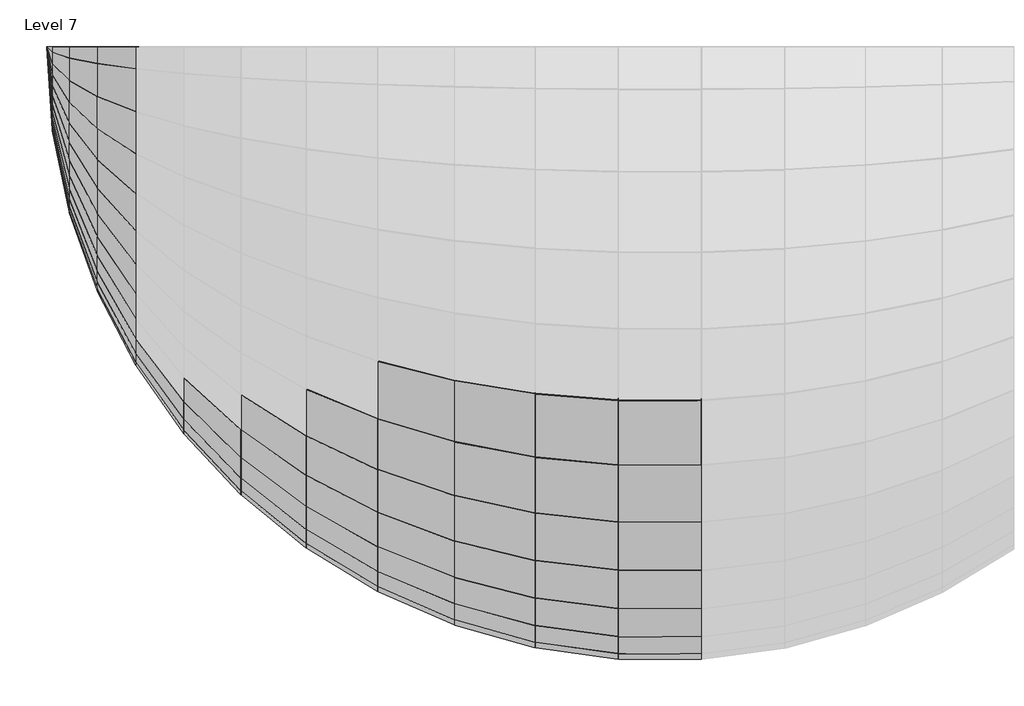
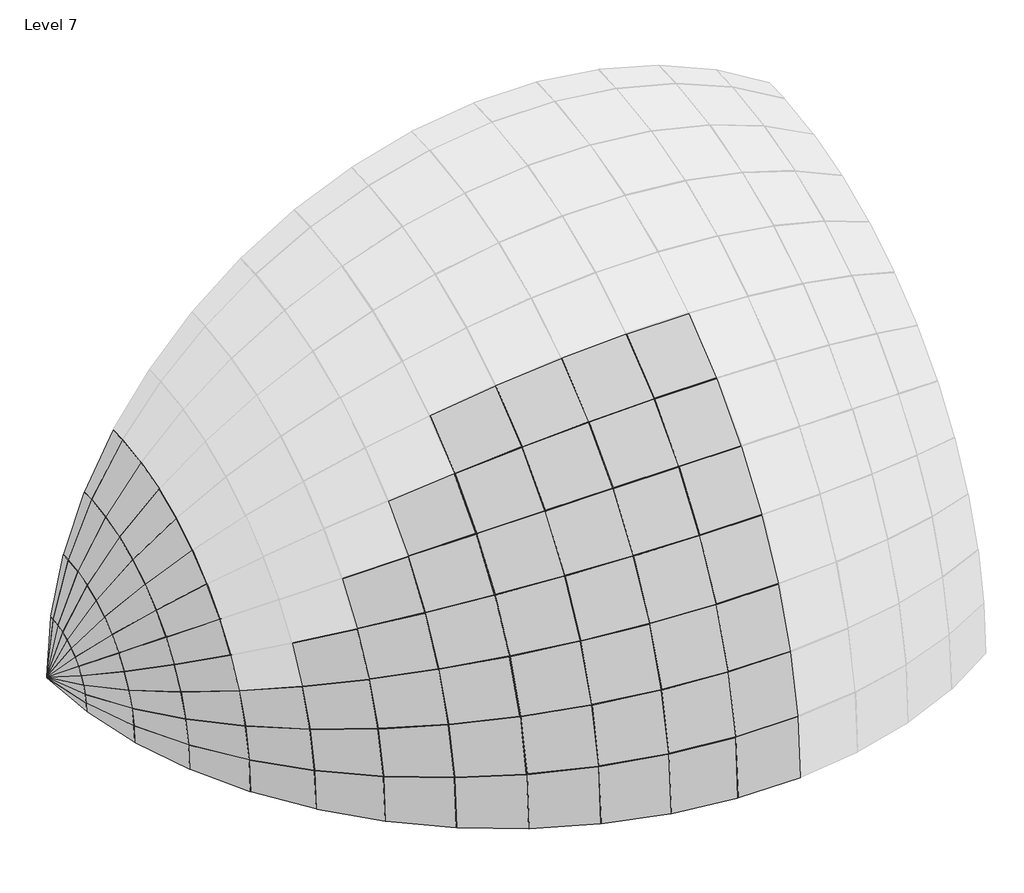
# One storey, part 1 of 3: 94 plates.
"""IFC4 building model written with IfcOpenShell, lengths in millimetres."""

from ifc_helpers import new_model, si_unit, origin, place, context, project, spatial, transform, mapped, element, save
from components import system_panel_glazed_eb2872cb, system_panel_glazed_7e7e82f3, system_panel_glazed_5717b311, system_panel_glazed_51fa8bef, system_panel_glazed_06019405, system_panel_glazed_b8320560, system_panel_glazed_dcb776d8, system_panel_glazed_54b3e10f, system_panel_glazed_054aaf1e, system_panel_glazed_7c4f69a4, system_panel_glazed_fc79af4e, system_panel_glazed_180d510e, system_panel_glazed_a0e03bef, system_panel_glazed_840653ca, system_panel_glazed_85b935d5, system_panel_glazed_2d759943

model = new_model("IFC4")

# Units and contexts
model_context = context("Model", 3, world=origin())
ifc_project = project(units=[si_unit("LENGTHUNIT", "METRE", prefix="MILLI")], contexts=[model_context])

# Site, building, storey
site = spatial("IfcSite", under=ifc_project)
building = spatial("IfcBuilding", under=site)
storey = spatial("IfcBuildingStorey", under=building, Name="Level 7", Elevation=24000.0)

# Plates
placement = place(None, origin())
system_panel_glazed_shape = system_panel_glazed_eb2872cb(model_context)
element("IfcPlate", 1, ObjectType="System Panel : Glazed", at=placement, inside=storey, context=model_context, shape_type="MappedRepresentation", body=[
    mapped(system_panel_glazed_shape, transform((-4459.5497772, -1906.491426, 16061.1643592), x_axis=(0.06834011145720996, -0.9953404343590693, 0.06802241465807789), y_axis=(-0.9976620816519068, -0.06818107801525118, 0.0046595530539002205), z_axis=(0.0, -0.06818181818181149, -0.9976729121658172))),
])
element("IfcPlate", 2, ObjectType="System Panel : Glazed", at=placement, inside=storey, context=model_context, shape_type="MappedRepresentation", body=[
    mapped(system_panel_glazed_shape, transform((-4459.5497772, -1895.4145864, 16100.917895), x_axis=(0.06834011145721, -0.9768320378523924, 0.20280236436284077), y_axis=(-0.997662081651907, -0.06691324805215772, 0.013892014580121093), z_axis=(0.0, -0.2032776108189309, -0.9791211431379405))),
])
element("IfcPlate", 3, ObjectType="System Panel : Glazed", at=placement, inside=storey, context=model_context, shape_type="MappedRepresentation", body=[
    mapped(system_panel_glazed_shape, transform((-4459.5497772, -1879.0324123, 16138.7948584), x_axis=(0.06834011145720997, -0.9401594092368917, 0.3338111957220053), y_axis=(-0.997662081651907, -0.06440116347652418, 0.022866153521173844), z_axis=(0.0, -0.33459344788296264, -0.9423625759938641))),
])
element("IfcPlate", 4, ObjectType="System Panel : Glazed", at=placement, inside=storey, context=model_context, shape_type="MappedRepresentation", body=[
    mapped(system_panel_glazed_shape, transform((-4459.5497772, -1857.6495308, 16174.0909257), x_axis=(0.06834011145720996, -0.8860044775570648, 0.4586127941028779), y_axis=(-0.997662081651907, -0.060691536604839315, 0.03141509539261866), z_axis=(0.0, -0.459687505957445, -0.8880807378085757))),
])
element("IfcPlate", 5, ObjectType="System Panel : Glazed", at=placement, inside=storey, context=model_context, shape_type="MappedRepresentation", body=[
    mapped(system_panel_glazed_shape, transform((-4459.5497772, -1831.6635575, 16206.149765), x_axis=(0.06834011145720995, -0.815374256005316, 0.5748864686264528), y_axis=(-0.997662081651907, -0.055853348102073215, 0.03937987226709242), z_axis=(0.0, -0.5762336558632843, -0.8172850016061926))),
])
element("IfcPlate", 6, ObjectType="System Panel : Glazed", at=placement, inside=storey, context=model_context, shape_type="MappedRepresentation", body=[
    mapped(system_panel_glazed_shape, transform((-4459.5497772, -1801.5577027, 16234.375241), x_axis=(0.06834011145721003, -0.7295821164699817, 0.6804701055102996), y_axis=(-0.9976620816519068, -0.04997656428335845, 0.046612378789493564), z_axis=(0.0, -0.682064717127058, -0.731291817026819))),
])
element("IfcPlate", 7, ObjectType="System Panel : Glazed", at=placement, inside=storey, context=model_context, shape_type="MappedRepresentation", body=[
    mapped(system_panel_glazed_shape, transform((-4459.5497772, -1767.8917859, 16258.2424996), x_axis=(0.06834011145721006, -0.6302233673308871, 0.7734003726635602), y_axis=(-0.9976620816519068, -0.04317046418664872, 0.05297812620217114), z_axis=(0.0, -0.7752127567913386, -0.6317002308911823))),
])
element("IfcPlate", 8, ObjectType="System Panel : Glazed", at=placement, inside=storey, context=model_context, shape_type="MappedRepresentation", body=[
    mapped(system_panel_glazed_shape, transform((-4459.5497772, -1731.2918263, 16277.3077283), x_axis=(0.06834011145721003, -0.5191455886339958, 0.8519492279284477), y_axis=(-0.9976620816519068, -0.03556160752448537, 0.058358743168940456), z_axis=(0.0, -0.8539456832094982, -0.5203621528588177))),
])
element("IfcPlate", 9, ObjectType="System Panel : Glazed", at=placement, inside=storey, context=model_context, shape_type="MappedRepresentation", body=[
    mapped(system_panel_glazed_shape, transform((-4459.5497772, -1692.4384017, 16291.2164083), x_axis=(0.06834011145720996, -0.3984142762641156, 0.914656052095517), y_axis=(-0.997662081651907, -0.027291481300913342, 0.06265417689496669), z_axis=(0.0, -0.9167994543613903, -0.39934791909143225))),
])
element("IfcPlate", 10, ObjectType="System Panel : Glazed", at=placement, inside=storey, context=model_context, shape_type="MappedRepresentation", body=[
    mapped(system_panel_glazed_shape, transform((-4459.5497772, -1652.053993, 16299.7099072), x_axis=(0.06834011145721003, -0.2702744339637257, 0.9603548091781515), y_axis=(-0.9976620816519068, -0.018513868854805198, 0.0657845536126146), z_axis=(0.0, -0.9626053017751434, -0.27090779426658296))),
])
element("IfcPlate", 11, ObjectType="System Panel : Glazed", at=placement, inside=storey, context=model_context, shape_type="MappedRepresentation", body=[
    mapped(system_panel_glazed_shape, transform((-4459.5497772, -1610.8895501, 16302.6302879), x_axis=(0.06834011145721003, -0.13710882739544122, 0.9881957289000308), y_axis=(-0.997662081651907, -0.009391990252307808, 0.06769166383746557), z_axis=(0.0, -0.9905114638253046, -0.13743012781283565))),
])
system_panel_glazed_2_shape = system_panel_glazed_7e7e82f3(model_context)
element("IfcPlate", 12, ObjectType="System Panel : Glazed", at=placement, inside=storey, context=model_context, shape_type="MappedRepresentation", body=[
    mapped(system_panel_glazed_2_shape, transform((-4459.5497758, -1599.7374285, 16300.9271061), x_axis=(0.0682229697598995, -0.03472771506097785, 0.997065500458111), y_axis=(-0.9976700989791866, -0.002374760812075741, 0.06818162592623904), z_axis=(0.0, -0.9993939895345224, -0.034808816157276))),
])
system_panel_glazed_3_shape = system_panel_glazed_5717b311(model_context)
element("IfcPlate", 13, ObjectType="System Panel : Glazed", at=placement, inside=storey, context=model_context, shape_type="MappedRepresentation", body=[
    mapped(system_panel_glazed_3_shape, transform((-4439.181621, -2205.9264651, 16040.7189144), x_axis=(0.0, 0.06818181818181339, 0.9976729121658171), y_axis=(-0.9790266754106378, -0.20325799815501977, 0.013890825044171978), z_axis=(0.20373210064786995, -0.9767483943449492, 0.06675181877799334))),
])
element("IfcPlate", 14, ObjectType="System Panel : Glazed", at=placement, inside=storey, context=model_context, shape_type="MappedRepresentation", body=[
    mapped(system_panel_glazed_3_shape, transform((-4439.181621, -2194.8471493, 16121.3995732), x_axis=(0.0, 0.20327761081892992, 0.9791211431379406), y_axis=(-0.9790266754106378, -0.19947840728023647, 0.041414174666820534), z_axis=(0.20373210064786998, -0.9585857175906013, 0.19901420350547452))),
])
element("IfcPlate", 15, ObjectType="System Panel : Glazed", at=placement, inside=storey, context=model_context, shape_type="MappedRepresentation", body=[
    mapped(system_panel_glazed_3_shape, transform((-4439.181621, -2172.8945381, 16199.8228019), x_axis=(0.0, 0.33459344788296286, 0.9423625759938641), y_axis=(-0.9790266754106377, -0.19198950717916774, 0.06816742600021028), z_axis=(0.20373210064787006, -0.9225980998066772, 0.3275759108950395))),
])
element("IfcPlate", 16, ObjectType="System Panel : Glazed", at=placement, inside=storey, context=model_context, shape_type="MappedRepresentation", body=[
    mapped(system_panel_glazed_3_shape, transform((-4439.181621, -2140.4768411, 16274.5303173), x_axis=(0.0, 0.4596875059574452, 0.8880807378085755), y_axis=(-0.9790266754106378, -0.1809305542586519, 0.0936531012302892), z_axis=(0.20373210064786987, -0.8694547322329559, 0.45004633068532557))),
])
element("IfcPlate", 17, ObjectType="System Panel : Glazed", at=placement, inside=storey, context=model_context, shape_type="MappedRepresentation", body=[
    mapped(system_panel_glazed_3_shape, transform((-4439.181621, -2098.1968668, 16344.1329302), x_axis=(0.0, 0.5762336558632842, 0.8172850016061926), y_axis=(-0.9790266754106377, -0.1665071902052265, 0.11739729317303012), z_axis=(0.2037321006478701, -0.8001438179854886, 0.5641481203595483))),
])
element("IfcPlate", 18, ObjectType="System Panel : Glazed", at=placement, inside=storey, context=model_context, shape_type="MappedRepresentation", body=[
    mapped(system_panel_glazed_3_shape, transform((-4439.181621, -2046.8408131, 16407.336377), x_axis=(0.0, 0.6820647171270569, 0.73129181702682), y_axis=(-0.9790266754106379, -0.1489876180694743, 0.13895847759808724), z_axis=(0.20373210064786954, -0.7159541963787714, 0.6677595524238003))),
])
element("IfcPlate", 19, ObjectType="System Panel : Glazed", at=placement, inside=storey, context=model_context, shape_type="MappedRepresentation", body=[
    mapped(system_panel_glazed_3_shape, transform((-4439.181621, -1987.3636479, 16462.9653871), x_axis=(0.0, 0.7752127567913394, 0.6317002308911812), y_axis=(-0.9790266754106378, -0.1286976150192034, 0.15793572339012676), z_axis=(0.20373210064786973, -0.6184513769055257, 0.7589539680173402))),
])
element("IfcPlate", 20, ObjectType="System Panel : Glazed", at=placement, inside=storey, context=model_context, shape_type="MappedRepresentation", body=[
    mapped(system_panel_glazed_3_shape, transform((-4439.181621, -1920.8713515, 16509.9855366), x_axis=(0.0, 0.8539456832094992, 0.5203621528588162), y_axis=(-0.9790266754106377, -0.1060144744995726, 0.17397614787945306), z_axis=(0.20373210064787, -0.5094484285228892, 0.8360356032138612))),
])
element("IfcPlate", 21, ObjectType="System Panel : Glazed", at=placement, inside=storey, context=model_context, shape_type="MappedRepresentation", body=[
    mapped(system_panel_glazed_3_shape, transform((-4439.181621, -1848.6003509, 16547.5224841), x_axis=(0.0, 0.9167994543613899, 0.3993479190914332), y_axis=(-0.9790266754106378, -0.08135999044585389, 0.18678147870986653), z_axis=(0.20373210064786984, -0.3909722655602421, 0.8975711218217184))),
])
element("IfcPlate", 22, ObjectType="System Panel : Glazed", at=placement, inside=storey, context=model_context, shape_type="MappedRepresentation", body=[
    mapped(system_panel_glazed_3_shape, transform((-4439.181621, -1771.8945284, 16574.8782283), x_axis=(0.0, 0.9626053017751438, 0.27090779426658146), y_axis=(-0.9790266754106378, -0.05519261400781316, 0.1961136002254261), z_axis=(0.20373210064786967, -0.26522595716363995, 0.9424162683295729))),
])
element("IfcPlate", 23, ObjectType="System Panel : Glazed", at=placement, inside=storey, context=model_context, shape_type="MappedRepresentation", body=[
    mapped(system_panel_glazed_3_shape, transform((-4439.181621, -1692.180232, 16591.5440881), x_axis=(0.0, 0.9905114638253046, 0.13743012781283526), y_axis=(-0.9790266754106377, -0.02799892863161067, 0.2017989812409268), z_axis=(0.20373210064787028, -0.13454776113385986, 0.969737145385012))),
])
system_panel_glazed_4_shape = system_panel_glazed_51fa8bef(model_context)
element("IfcPlate", 24, ObjectType="System Panel : Glazed", at=placement, inside=storey, context=model_context, shape_type="MappedRepresentation", body=[
    mapped(system_panel_glazed_4_shape, transform((-4439.181621, -1630.9295437, 16597.8784469), x_axis=(0.0, 0.9993939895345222, 0.034808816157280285), y_axis=(-0.9790966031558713, -0.007079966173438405, 0.20327251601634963), z_axis=(0.2033957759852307, -0.0340811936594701, 0.9785032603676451))),
])
system_panel_glazed_5_shape = system_panel_glazed_06019405(model_context)
element("IfcPlate", 25, ObjectType="System Panel : Glazed", at=placement, inside=storey, context=model_context, shape_type="MappedRepresentation", body=[
    mapped(system_panel_glazed_5_shape, transform((-4317.2150545, -2790.6681312, 16080.6806588), x_axis=(0.0, 0.06818181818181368, 0.9976729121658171), y_axis=(-0.9421163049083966, -0.3345060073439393, 0.022860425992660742), z_axis=(0.3352862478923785, -0.9399239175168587, 0.0642352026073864))),
])
element("IfcPlate", 26, ObjectType="System Panel : Glazed", at=placement, inside=storey, context=model_context, shape_type="MappedRepresentation", body=[
    mapped(system_panel_glazed_5_shape, transform((-4317.2150545, -2768.71552, 16240.5417162), x_axis=(0.0, 0.20327761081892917, 0.9791211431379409), y_axis=(-0.9421163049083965, -0.32828585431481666, 0.06815618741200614), z_axis=(0.33528624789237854, -0.9224459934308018, 0.1915111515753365))),
])
element("IfcPlate", 27, ObjectType="System Panel : Glazed", at=placement, inside=storey, context=model_context, shape_type="MappedRepresentation", body=[
    mapped(system_panel_glazed_5_shape, transform((-4317.2150545, -2725.2185073, 16395.9298905), x_axis=(0.0, 0.3345934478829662, 0.9423625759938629), y_axis=(-0.9421163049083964, -0.3159612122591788, 0.11218458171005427), z_axis=(0.3352862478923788, -0.887815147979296, 0.3152259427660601))),
])
element("IfcPlate", 28, ObjectType="System Panel : Glazed", at=placement, inside=storey, context=model_context, shape_type="MappedRepresentation", body=[
    mapped(system_panel_glazed_5_shape, transform((-4317.2150545, -2660.9859218, 16543.9557321), x_axis=(0.0, 0.45968750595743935, 0.8880807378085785), y_axis=(-0.942116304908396, -0.29776125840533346, 0.15412689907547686), z_axis=(0.3352862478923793, -0.8366753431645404, 0.4330790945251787))),
])
element("IfcPlate", 29, ObjectType="System Panel : Glazed", at=placement, inside=storey, context=model_context, shape_type="MappedRepresentation", body=[
    mapped(system_panel_glazed_5_shape, transform((-4317.2150545, -2577.2121711, 16681.8666944), x_axis=(0.0, 0.5762336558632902, 0.8172850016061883), y_axis=(-0.9421163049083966, -0.274024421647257, 0.1932032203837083), z_axis=(0.3352862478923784, -0.7699775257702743, 0.5428791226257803))),
])
element("IfcPlate", 30, ObjectType="System Panel : Glazed", at=placement, inside=storey, context=model_context, shape_type="MappedRepresentation", body=[
    mapped(system_panel_glazed_5_shape, transform((-4317.2150545, -2475.4550316, 16807.0983173), x_axis=(0.0, 0.6820647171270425, 0.7312918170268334), y_axis=(-0.9421163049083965, -0.24519208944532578, 0.22868691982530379), z_axis=(0.3352862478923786, -0.6889619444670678, 0.6425842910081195))),
])
element("IfcPlate", 31, ObjectType="System Panel : Glazed", at=placement, inside=storey, context=model_context, shape_type="MappedRepresentation", body=[
    mapped(system_panel_glazed_5_shape, transform((-4317.2150545, -2357.6066815, 16917.3219137), x_axis=(0.0, 0.7752127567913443, 0.6317002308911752), y_axis=(-0.9421163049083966, -0.21180040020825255, 0.2599181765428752), z_axis=(0.33528624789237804, -0.5951350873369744, 0.7303405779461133))),
])
element("IfcPlate", 32, ObjectType="System Panel : Glazed", at=placement, inside=storey, context=model_context, shape_type="MappedRepresentation", body=[
    mapped(system_panel_glazed_5_shape, transform((-4317.2150545, -2225.8585157, 17010.4878711), x_axis=(0.0, 0.8539456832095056, 0.5203621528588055), y_axis=(-0.9421163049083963, -0.17447027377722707, 0.2863162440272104), z_axis=(0.3352862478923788, -0.4902416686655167, 0.8045161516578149))),
])
element("IfcPlate", 33, ObjectType="System Panel : Glazed", at=placement, inside=storey, context=model_context, shape_type="MappedRepresentation", body=[
    mapped(system_panel_glazed_5_shape, transform((-4317.2150545, -2082.6603968, 17084.8637649), x_axis=(0.0, 0.9167994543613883, 0.3993479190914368), y_axis=(-0.9421163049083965, -0.13389586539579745, 0.3073902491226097), z_axis=(0.3352862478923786, -0.37623218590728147, 0.8637317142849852))),
])
element("IfcPlate", 34, ObjectType="System Panel : Glazed", at=placement, inside=storey, context=model_context, shape_type="MappedRepresentation", body=[
    mapped(system_panel_glazed_5_shape, transform((-4317.2150545, -1930.6750998, 17139.0665721), x_axis=(0.0, 0.9626053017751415, 0.27090779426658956), y_axis=(-0.9421163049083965, -0.0908316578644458, 0.3227483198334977), z_axis=(0.3352862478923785, -0.2552266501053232, 0.9068861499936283))),
])
element("IfcPlate", 35, ObjectType="System Panel : Glazed", at=placement, inside=storey, context=model_context, shape_type="MappedRepresentation", body=[
    mapped(system_panel_glazed_5_shape, transform((-4317.2150545, -1772.7287975, 17172.0883893), x_axis=(0.0, 0.990511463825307, 0.13743012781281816), y_axis=(-0.9421163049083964, -0.04607843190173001, 0.33210487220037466), z_axis=(0.3352862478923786, -0.12947516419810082, 0.9331770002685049))),
])
system_panel_glazed_6_shape = system_panel_glazed_b8320560(model_context)
element("IfcPlate", 36, ObjectType="System Panel : Glazed", at=placement, inside=storey, context=model_context, shape_type="MappedRepresentation", body=[
    mapped(system_panel_glazed_6_shape, transform((-4317.2150545, -1651.3663799, 17184.6393193), x_axis=(0.0, 0.9993939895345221, 0.034808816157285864), y_axis=(-0.9422985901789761, -0.011653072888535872, 0.3345707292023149), z_axis=(0.33477360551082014, -0.03280029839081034, 0.9417275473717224))),
])
system_panel_glazed_7_shape = system_panel_glazed_dcb776d8(model_context)
element("IfcPlate", 37, ObjectType="System Panel : Glazed", at=placement, inside=storey, context=model_context, shape_type="MappedRepresentation", body=[
    mapped(system_panel_glazed_7_shape, transform((-4116.4589858, -3353.4571862, 16119.1421431), x_axis=(0.0, 0.0681818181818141, 0.9976729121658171), y_axis=(-0.887642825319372, -0.459460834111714, 0.03139994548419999), z_axis=(0.46053253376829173, -0.8855772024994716, 0.060521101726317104))),
])
element("IfcPlate", 38, ObjectType="System Panel : Glazed", at=placement, inside=storey, context=model_context, shape_type="MappedRepresentation", body=[
    mapped(system_panel_glazed_7_shape, transform((-4116.4589858, -3321.0394892, 16355.2109762), x_axis=(0.0, 0.20327761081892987, 0.9791211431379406), y_axis=(-0.8876428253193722, -0.45091714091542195, 0.09361595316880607), z_axis=(0.4605325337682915, -0.869109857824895, 0.18043791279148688))),
])
element("IfcPlate", 39, ObjectType="System Panel : Glazed", at=placement, inside=storey, context=model_context, shape_type="MappedRepresentation", body=[
    mapped(system_panel_glazed_7_shape, transform((-4116.4589858, -3256.8069037, 16584.6746465), x_axis=(0.0, 0.3345934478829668, 0.9423625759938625), y_axis=(-0.8876428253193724, -0.4339886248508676, 0.15409116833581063), z_axis=(0.4605325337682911, -0.8364813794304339, 0.29699947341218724))),
])
element("IfcPlate", 40, ObjectType="System Panel : Glazed", at=placement, inside=storey, context=model_context, shape_type="MappedRepresentation", body=[
    mapped(system_panel_glazed_7_shape, transform((-4116.4589858, -3161.9538373, 16803.2662675), x_axis=(0.0, 0.4596875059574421, 0.8880807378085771), y_axis=(-0.8876428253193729, -0.40899007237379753, 0.21170105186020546), z_axis=(0.4605325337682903, -0.7882984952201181, 0.4080383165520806))),
])
element("IfcPlate", 41, ObjectType="System Panel : Glazed", at=placement, inside=storey, context=model_context, shape_type="MappedRepresentation", body=[
    mapped(system_panel_glazed_7_shape, transform((-4116.4589858, -3038.2440865, 17006.9211192), x_axis=(0.0, 0.5762336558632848, 0.8172850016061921), y_axis=(-0.8876428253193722, -0.37638633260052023, 0.2653743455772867), z_axis=(0.46053253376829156, -0.7254571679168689, 0.5114896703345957))),
])
element("IfcPlate", 42, ObjectType="System Panel : Glazed", at=placement, inside=storey, context=model_context, shape_type="MappedRepresentation", body=[
    mapped(system_panel_glazed_7_shape, transform((-4116.4589858, -2887.9780394, 17191.852231), x_axis=(0.0, 0.682064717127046, 0.7312918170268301), y_axis=(-0.8876428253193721, -0.3367836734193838, 0.31411299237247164), z_axis=(0.46053253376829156, -0.6491259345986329, 0.6054298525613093))),
])
element("IfcPlate", 43, ObjectType="System Panel : Glazed", at=placement, inside=storey, context=model_context, shape_type="MappedRepresentation", body=[
    mapped(system_panel_glazed_7_shape, transform((-4116.4589858, -2713.9498994, 17354.6208014), x_axis=(0.0, 0.7752127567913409, 0.6317002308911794), y_axis=(-0.8876428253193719, -0.2909185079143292, 0.3570106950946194), z_axis=(0.46053253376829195, -0.5607241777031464, 0.6881120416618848))),
])
element("IfcPlate", 44, ObjectType="System Panel : Glazed", at=placement, inside=storey, context=model_context, shape_type="MappedRepresentation", body=[
    mapped(system_panel_glazed_7_shape, transform((-4116.4589858, -2519.3957268, 17492.2001419), x_axis=(0.0, 0.8539456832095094, 0.5203621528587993), y_axis=(-0.8876428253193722, -0.23964370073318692, 0.3932697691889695), z_axis=(0.46053253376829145, -0.46189573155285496, 0.7579987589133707))),
])
element("IfcPlate", 45, ObjectType="System Panel : Glazed", at=placement, inside=storey, context=model_context, shape_type="MappedRepresentation", body=[
    mapped(system_panel_glazed_7_shape, transform((-4116.4589858, -2307.9332645, 17602.0319592), x_axis=(0.0, 0.9167994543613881, 0.39934791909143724), y_axis=(-0.8876428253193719, -0.1839127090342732, 0.4222159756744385), z_axis=(0.46053253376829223, -0.3544783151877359, 0.8137904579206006))),
])
element("IfcPlate", 46, ObjectType="System Panel : Glazed", at=placement, inside=storey, context=model_context, shape_type="MappedRepresentation", body=[
    mapped(system_panel_glazed_7_shape, transform((-4116.4589858, -2083.4946658, 17682.073926), x_axis=(0.0, 0.9626053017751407, 0.2709077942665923), y_axis=(-0.8876428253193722, -0.12476185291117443, 0.44331105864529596), z_axis=(0.4605325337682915, -0.24046935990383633, 0.854449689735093))),
])
element("IfcPlate", 47, ObjectType="System Panel : Glazed", at=placement, inside=storey, context=model_context, shape_type="MappedRepresentation", body=[
    mapped(system_panel_glazed_7_shape, transform((-4116.4589858, -1850.2533757, 17730.8376586), x_axis=(0.0, 0.9905114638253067, 0.13743012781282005), y_axis=(-0.8876428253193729, -0.06329104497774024, 0.45616275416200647), z_axis=(0.46053253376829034, -0.12198886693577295, 0.8792203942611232))),
])
system_panel_glazed_8_shape = system_panel_glazed_54b3e10f(model_context)
element("IfcPlate", 48, ObjectType="System Panel : Glazed", at=placement, inside=storey, context=model_context, shape_type="MappedRepresentation", body=[
    mapped(system_panel_glazed_8_shape, transform((-4116.4589858, -1671.0359681, 17749.3717747), x_axis=(0.0, 0.9993939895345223, 0.03480881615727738), y_axis=(-0.8879669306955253, -0.016008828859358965, 0.4596285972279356), z_axis=(0.45990730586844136, -0.030909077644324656, 0.8874288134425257))),
])
system_panel_glazed_9_shape = system_panel_glazed_054aaf1e(model_context)
element("IfcPlate", 49, ObjectType="System Panel : Glazed", at=placement, inside=storey, context=model_context, shape_type="MappedRepresentation", body=[
    mapped(system_panel_glazed_9_shape, transform((-3840.6464822, -3883.8285442, 16155.3881743), x_axis=(0.0, 0.0681818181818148, 0.9976729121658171), y_axis=(-0.8166520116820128, -0.575787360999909, 0.039349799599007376), z_axis=(0.5771303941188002, -0.8147515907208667, 0.055680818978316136))),
])
element("IfcPlate", 50, ObjectType="System Panel : Glazed", at=placement, inside=storey, context=model_context, shape_type="MappedRepresentation", body=[
    mapped(system_panel_glazed_9_shape, transform((-3840.6464822, -3841.5485699, 16463.2750733), x_axis=(0.0, 0.20327761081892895, 0.9791211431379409), y_axis=(-0.8166520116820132, -0.5650805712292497, 0.1173176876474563), z_axis=(0.5771303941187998, -0.7996012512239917, 0.16600706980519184))),
])
element("IfcPlate", 51, ObjectType="System Panel : Glazed", at=placement, inside=storey, context=model_context, shape_type="MappedRepresentation", body=[
    mapped(system_panel_glazed_9_shape, transform((-3840.6464822, -3757.7748192, 16762.5473532), x_axis=(0.0, 0.33459344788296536, 0.9423625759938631), y_axis=(-0.816652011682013, -0.5438660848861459, 0.1931040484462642), z_axis=(0.5771303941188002, -0.7695822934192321, 0.2732464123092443))),
])
system_panel_glazed_10_shape = system_panel_glazed_7c4f69a4(model_context)
element("IfcPlate", 52, ObjectType="System Panel : Glazed", at=placement, inside=storey, context=model_context, shape_type="MappedRepresentation", body=[
    mapped(system_panel_glazed_10_shape, transform((-3494.9062887, -4371.9199279, 16188.7447559), x_axis=(0.0, 0.06818181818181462, 0.997672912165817), y_axis=(-0.7304986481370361, -0.681324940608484, 0.046562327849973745), z_axis=(0.6829141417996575, -0.7287987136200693, 0.04980672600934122))),
])
element("IfcPlate", 53, ObjectType="System Panel : Glazed", at=placement, inside=storey, context=model_context, shape_type="MappedRepresentation", body=[
    mapped(system_panel_glazed_10_shape, transform((-3494.9062887, -4320.5638741, 16562.7245513), x_axis=(0.0, 0.2032776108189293, 0.9791211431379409), y_axis=(-0.7304986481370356, -0.668655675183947, 0.13882115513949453), z_axis=(0.6829141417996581, -0.7152466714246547, 0.1484940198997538))),
])
element("IfcPlate", 54, ObjectType="System Panel : Glazed", at=placement, inside=storey, context=model_context, shape_type="MappedRepresentation", body=[
    mapped(system_panel_glazed_10_shape, transform((-3494.9062887, -4218.8067346, 16926.2404604), x_axis=(0.0, 0.33459344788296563, 0.942362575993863), y_axis=(-0.7304986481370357, -0.643552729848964, 0.22849859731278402), z_axis=(0.682914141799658, -0.6883945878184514, 0.24442006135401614))),
])
element("IfcPlate", 55, ObjectType="System Panel : Glazed", at=placement, inside=storey, context=model_context, shape_type="MappedRepresentation", body=[
    mapped(system_panel_glazed_10_shape, transform((-3494.9062887, -4068.5406876, 17272.5328898), x_axis=(0.0, 0.4596875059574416, 0.8880807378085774), y_axis=(-0.7304986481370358, -0.6064828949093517, 0.3139270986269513), z_axis=(0.6829141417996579, -0.648741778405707, 0.33580110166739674))),
])
system_panel_glazed_11_shape = system_panel_glazed_fc79af4e(model_context)
element("IfcPlate", 56, ObjectType="System Panel : Glazed", at=placement, inside=storey, context=model_context, shape_type="MappedRepresentation", body=[
    mapped(system_panel_glazed_11_shape, transform((-3085.6674584, -4808.6552579, 16218.5916211), x_axis=(0.0, 0.06818181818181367, 0.9976729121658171), y_axis=(-0.6308155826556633, -0.7741271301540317, 0.05290450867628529), z_axis=(0.7759327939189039, -0.6293476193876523, 0.04301015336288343))),
])
element("IfcPlate", 57, ObjectType="System Panel : Glazed", at=placement, inside=storey, context=model_context, shape_type="MappedRepresentation", body=[
    mapped(system_panel_glazed_11_shape, transform((-3085.6674584, -4749.1780926, 16651.710143), x_axis=(0.0, 0.20327761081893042, 0.9791211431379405), y_axis=(-0.630815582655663, -0.7597322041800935, 0.15772976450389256), z_axis=(0.7759327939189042, -0.6176448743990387, 0.1282306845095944))),
])
element("IfcPlate", 58, ObjectType="System Panel : Glazed", at=placement, inside=storey, context=model_context, shape_type="MappedRepresentation", body=[
    mapped(system_panel_glazed_11_shape, transform((-3085.6674584, -4631.3297425, 17072.7100879), x_axis=(0.0, 0.3345934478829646, 0.9423625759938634), y_axis=(-0.6308155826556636, -0.7312100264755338, 0.2596220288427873), z_axis=(0.7759327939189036, -0.5944569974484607, 0.2110667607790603))),
])
element("IfcPlate", 59, ObjectType="System Panel : Glazed", at=placement, inside=storey, context=model_context, shape_type="MappedRepresentation", body=[
    mapped(system_panel_glazed_11_shape, transform((-3085.6674584, -4457.3016024, 17473.7629444), x_axis=(0.0, 0.4596875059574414, 0.8880807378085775), y_axis=(-0.6308155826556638, -0.6890909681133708, 0.35668661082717), z_axis=(0.7759327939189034, -0.5602151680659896, 0.2899780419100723))),
])
element("IfcPlate", 60, ObjectType="System Panel : Glazed", at=placement, inside=storey, context=model_context, shape_type="MappedRepresentation", body=[
    mapped(system_panel_glazed_11_shape, transform((-3085.6674584, -4230.3297329, 17847.4111181), x_axis=(0.0, 0.5762336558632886, 0.8172850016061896), y_axis=(-0.6308155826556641, -0.6341582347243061, 0.44711859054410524), z_axis=(0.7759327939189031, -0.5155561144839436, 0.36349716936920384))),
])
system_panel_glazed_12_shape = system_panel_glazed_180d510e(model_context)
element("IfcPlate", 61, ObjectType="System Panel : Glazed", at=placement, inside=storey, context=model_context, shape_type="MappedRepresentation", body=[
    mapped(system_panel_glazed_12_shape, transform((-2620.5398043, -5185.9134226, 16244.373766), x_axis=(0.0, 0.06818181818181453, 0.997672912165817), y_axis=(-0.5194782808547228, -0.8524951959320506, 0.058260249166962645), z_axis=(0.8544836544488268, -0.5182694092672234, 0.03541897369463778))),
])
element("IfcPlate", 62, ObjectType="System Panel : Glazed", at=placement, inside=storey, context=model_context, shape_type="MappedRepresentation", body=[
    mapped(system_panel_glazed_12_shape, transform((-2620.5398043, -5119.4211262, 16728.5771577), x_axis=(0.0, 0.20327761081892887, 0.979121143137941), y_axis=(-0.5194782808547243, -0.8366430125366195, 0.1736973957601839), z_axis=(0.8544836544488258, -0.5086321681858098, 0.10559830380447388))),
])
element("IfcPlate", 63, ObjectType="System Panel : Glazed", at=placement, inside=storey, context=model_context, shape_type="MappedRepresentation", body=[
    mapped(system_panel_glazed_12_shape, transform((-2620.5398043, -4987.6729604, 17199.2326271), x_axis=(0.0, 0.3345934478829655, 0.9423625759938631), y_axis=(-0.5194782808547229, -0.8052334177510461, 0.28590463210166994), z_axis=(0.8544836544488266, -0.48953689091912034, 0.17381402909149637))),
])
element("IfcPlate", 64, ObjectType="System Panel : Glazed", at=placement, inside=storey, context=model_context, shape_type="MappedRepresentation", body=[
    mapped(system_panel_glazed_12_shape, transform((-2620.5398043, -4793.1187878, 17647.5883162), x_axis=(0.0, 0.45968750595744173, 0.8880807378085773), y_axis=(-0.5194782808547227, -0.7588504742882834, 0.3927954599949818), z_axis=(0.8544836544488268, -0.4613386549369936, 0.2387976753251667))),
])
element("IfcPlate", 65, ObjectType="System Panel : Glazed", at=placement, inside=storey, context=model_context, shape_type="MappedRepresentation", body=[
    mapped(system_panel_glazed_12_shape, transform((-2620.5398043, -4539.3763513, 18065.3070325), x_axis=(0.0, 0.5762336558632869, 0.8172850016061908), y_axis=(-0.519478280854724, -0.6983566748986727, 0.49238224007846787), z_axis=(0.8544836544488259, -0.42456180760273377, 0.2993408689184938))),
])
element("IfcPlate", 66, ObjectType="System Panel : Glazed", at=placement, inside=storey, context=model_context, shape_type="MappedRepresentation", body=[
    mapped(system_panel_glazed_12_shape, transform((-2620.5398043, -4231.1640019, 18444.6212792), x_axis=(0.0, 0.6820647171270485, 0.7312918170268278), y_axis=(-0.5194782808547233, -0.624876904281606, 0.5828131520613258), z_axis=(0.8544836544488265, -0.37989021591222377, 0.35431780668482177))),
])
system_panel_glazed_13_shape = system_panel_glazed_a0e03bef(model_context)
element("IfcPlate", 67, ObjectType="System Panel : Glazed", at=placement, inside=storey, context=model_context, shape_type="MappedRepresentation", body=[
    mapped(system_panel_glazed_13_shape, transform((-2108.1723944, -5496.679291, 16265.6117706), x_axis=(0.0, 0.06818181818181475, 0.997672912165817), y_axis=(-0.3985663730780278, -0.9150052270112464, 0.06253223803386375), z_axis=(0.9171394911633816, -0.39763887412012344, 0.027174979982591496))),
])
element("IfcPlate", 68, ObjectType="System Panel : Glazed", at=placement, inside=storey, context=model_context, shape_type="MappedRepresentation", body=[
    mapped(system_panel_glazed_13_shape, transform((-2108.1723944, -5424.4082904, 16791.8962501), x_axis=(0.0, 0.20327761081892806, 0.9791211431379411), y_axis=(-0.3985663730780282, -0.8979906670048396, 0.18643392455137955), z_axis=(0.9171394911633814, -0.3902447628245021, 0.08101962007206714))),
])
element("IfcPlate", 69, ObjectType="System Panel : Glazed", at=placement, inside=storey, context=model_context, shape_type="MappedRepresentation", body=[
    mapped(system_panel_glazed_13_shape, transform((-2108.1723944, -5281.2101715, 17303.455386), x_axis=(0.0, 0.33459344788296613, 0.9423625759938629), y_axis=(-0.3985663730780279, -0.8642779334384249, 0.306868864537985), z_axis=(0.9171394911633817, -0.37559403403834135, 0.13335769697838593))),
])
element("IfcPlate", 70, ObjectType="System Panel : Glazed", at=placement, inside=storey, context=model_context, shape_type="MappedRepresentation", body=[
    mapped(system_panel_glazed_13_shape, transform((-2108.1723944, -5069.7477093, 17790.7767151), x_axis=(0.0, 0.4596875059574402, 0.8880807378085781), y_axis=(-0.3985663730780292, -0.8144939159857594, 0.42159756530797), z_axis=(0.917139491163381, -0.35395911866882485, 0.18321598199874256))),
])
element("IfcPlate", 71, ObjectType="System Panel : Glazed", at=placement, inside=storey, context=model_context, shape_type="MappedRepresentation", body=[
    mapped(system_panel_glazed_13_shape, transform((-2108.1723944, -4793.9530569, 18244.7984773), x_axis=(0.0, 0.5762336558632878, 0.8172850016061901), y_axis=(-0.39856637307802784, -0.7495643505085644, 0.5284866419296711), z_axis=(0.9171394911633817, -0.32574231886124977, 0.22966735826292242))),
])
element("IfcPlate", 72, ObjectType="System Panel : Glazed", at=placement, inside=storey, context=model_context, shape_type="MappedRepresentation", body=[
    mapped(system_panel_glazed_13_shape, transform((-2108.1723944, -4458.9546272, 18657.078119), x_axis=(0.0, 0.6820647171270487, 0.7312918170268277), y_axis=(-0.3985663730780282, -0.6706966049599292, 0.625548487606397), z_axis=(0.9171394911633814, -0.2914683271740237, 0.2718480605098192))),
])
element("IfcPlate", 73, ObjectType="System Panel : Glazed", at=placement, inside=storey, context=model_context, shape_type="MappedRepresentation", body=[
    mapped(system_panel_glazed_13_shape, transform((-2108.1723944, -4070.9817301, 19019.9492833), x_axis=(0.0, 0.7752127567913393, 0.6317002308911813), y_axis=(-0.3985663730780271, -0.5793572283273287, 0.7109782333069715), z_axis=(0.9171394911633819, -0.25177446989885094, 0.30897373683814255))),
])
system_panel_glazed_14_shape = system_panel_glazed_840653ca(model_context)
element("IfcPlate", 74, ObjectType="System Panel : Glazed", at=placement, inside=storey, context=model_context, shape_type="MappedRepresentation", body=[
    mapped(system_panel_glazed_14_shape, transform((-1558.0927218, -5735.1741588, 16281.9107134), x_axis=(0.0, 0.0681818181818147, 0.997672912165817), y_axis=(-0.2703234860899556, -0.9605291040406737, 0.06564337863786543), z_axis=(0.9627695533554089, -0.2696944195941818, 0.018431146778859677))),
])
element("IfcPlate", 75, ObjectType="System Panel : Glazed", at=placement, inside=storey, context=model_context, shape_type="MappedRepresentation", body=[
    mapped(system_panel_glazed_14_shape, transform((-1558.0927218, -5658.4683363, 16840.4899989), x_axis=(0.0, 0.20327761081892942, 0.9791211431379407), y_axis=(-0.27032348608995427, -0.942668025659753, 0.19570949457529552), z_axis=(0.9627695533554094, -0.2646794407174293, 0.05495071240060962))),
])
element("IfcPlate", 76, ObjectType="System Panel : Glazed", at=placement, inside=storey, context=model_context, shape_type="MappedRepresentation", body=[
    mapped(system_panel_glazed_14_shape, transform((-1558.0927218, -5506.4830392, 17383.4403381), x_axis=(0.0, 0.33459344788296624, 0.9423625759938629), y_axis=(-0.2703234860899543, -0.9072779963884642, 0.32213638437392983), z_axis=(0.9627695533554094, -0.2547427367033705, 0.09044846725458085))),
])
element("IfcPlate", 77, ObjectType="System Panel : Glazed", at=placement, inside=storey, context=model_context, shape_type="MappedRepresentation", body=[
    mapped(system_panel_glazed_14_shape, transform((-1558.0927218, -5282.0444406, 17900.6655471), x_axis=(0.0, 0.45968750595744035, 0.888080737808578), y_axis=(-0.27032348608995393, -0.8550170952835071, 0.442573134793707), z_axis=(0.9627695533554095, -0.24006908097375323, 0.1242643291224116))),
])
element("IfcPlate", 78, ObjectType="System Panel : Glazed", at=placement, inside=storey, context=model_context, shape_type="MappedRepresentation", body=[
    mapped(system_panel_glazed_14_shape, transform((-1558.0927218, -4989.3259852, 18382.5478016), x_axis=(0.0, 0.5762336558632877, 0.8172850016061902), y_axis=(-0.2703234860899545, -0.7868571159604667, 0.554780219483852), z_axis=(0.9627695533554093, -0.22093133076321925, 0.15576949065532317))),
])
element("IfcPlate", 79, ObjectType="System Panel : Glazed", at=placement, inside=storey, context=model_context, shape_type="MappedRepresentation", body=[
    mapped(system_panel_glazed_14_shape, transform((-1558.0927218, -4633.770785, 18820.1264814), x_axis=(0.0, 0.6820647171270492, 0.7312918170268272), y_axis=(-0.2703234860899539, -0.7040654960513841, 0.6566711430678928), z_axis=(0.9627695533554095, -0.19768535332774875, 0.18437811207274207))),
])
element("IfcPlate", 80, ObjectType="System Panel : Glazed", at=placement, inside=storey, context=model_context, shape_type="MappedRepresentation", body=[
    mapped(system_panel_glazed_14_shape, transform((-1558.0927218, -4221.9904036, 19205.2647927), x_axis=(0.0, 0.775212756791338, 0.631700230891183), y_axis=(-0.2703234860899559, -0.608181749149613, 0.7463512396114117), z_axis=(0.962769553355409, -0.17076340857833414, 0.20955821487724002))),
])
system_panel_glazed_15_shape = system_panel_glazed_85b935d5(model_context)
element("IfcPlate", 81, ObjectType="System Panel : Glazed", at=placement, inside=storey, context=model_context, shape_type="MappedRepresentation", body=[
    mapped(system_panel_glazed_15_shape, transform((-980.5295407, -5896.9632041, 16292.9675148), x_axis=(0.0, 0.06818181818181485, 0.997672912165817), y_axis=(-0.13711633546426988, -0.9882498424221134, 0.06753783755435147), z_axis=(0.9905549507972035, -0.13679725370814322, 0.00934884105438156))),
])
element("IfcPlate", 82, ObjectType="System Panel : Glazed", at=placement, inside=storey, context=model_context, shape_type="MappedRepresentation", body=[
    mapped(system_panel_glazed_15_shape, transform((-980.5295407, -5817.2489076, 16873.4548015), x_axis=(0.0, 0.2032776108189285, 0.979121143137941), y_axis=(-0.13711633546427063, -0.9698732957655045, 0.20135764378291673), z_axis=(0.9905549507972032, -0.13425350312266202, 0.027872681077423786))),
])
element("IfcPlate", 83, ObjectType="System Panel : Glazed", at=placement, inside=storey, context=model_context, shape_type="MappedRepresentation", body=[
    mapped(system_panel_glazed_15_shape, transform((-980.5295407, -5659.3026053, 17437.70016), x_axis=(0.0, 0.3345934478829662, 0.9423625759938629), y_axis=(-0.13711633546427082, -0.9334619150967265, 0.33143319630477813), z_axis=(0.9905549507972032, -0.12921330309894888, 0.04587822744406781))),
])
element("IfcPlate", 84, ObjectType="System Panel : Glazed", at=placement, inside=storey, context=model_context, shape_type="MappedRepresentation", body=[
    mapped(system_panel_glazed_15_shape, transform((-980.5295407, -5426.0613152, 17975.2114246), x_axis=(0.0, 0.459687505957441, 0.8880807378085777), y_axis=(-0.13711633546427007, -0.8796927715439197, 0.4553457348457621), z_axis=(0.9905549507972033, -0.12177037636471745, 0.06303066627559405))),
])
element("IfcPlate", 85, ObjectType="System Panel : Glazed", at=placement, inside=storey, context=model_context, shape_type="MappedRepresentation", body=[
    mapped(system_panel_glazed_15_shape, transform((-980.5295407, -5121.8621687, 18475.9935512), x_axis=(0.0, 0.5762336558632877, 0.8172850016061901), y_axis=(-0.13711633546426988, -0.8095657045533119, 0.5707911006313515), z_axis=(0.9905549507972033, -0.11206312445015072, 0.07901104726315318))),
])
element("IfcPlate", 86, ObjectType="System Panel : Glazed", at=placement, inside=storey, context=model_context, shape_type="MappedRepresentation", body=[
    mapped(system_panel_glazed_15_shape, transform((-980.5295407, -4752.3617616, 18930.7344753), x_axis=(0.0, 0.6820647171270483, 0.7312918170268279), y_axis=(-0.13711633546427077, -0.7243847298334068, 0.6756225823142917), z_axis=(0.9905549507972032, -0.10027205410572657, 0.09352221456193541))),
])
element("IfcPlate", 87, ObjectType="System Panel : Glazed", at=placement, inside=storey, context=model_context, shape_type="MappedRepresentation", body=[
    mapped(system_panel_glazed_15_shape, transform((-980.5295407, -4324.4309691, 19330.9782708), x_axis=(0.0, 0.7752127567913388, 0.6317002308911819), y_axis=(-0.13711633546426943, -0.6257337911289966, 0.767890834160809), z_axis=(0.9905549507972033, -0.0866164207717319, 0.1062943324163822))),
])
system_panel_glazed_16_shape = system_panel_glazed_2d759943(model_context)
element("IfcPlate", 88, ObjectType="System Panel : Glazed", at=placement, inside=storey, context=model_context, shape_type="MappedRepresentation", body=[
    mapped(system_panel_glazed_16_shape, transform((-386.2226624, -5979.0379529, 16298.5765732), x_axis=(0.0, 0.0681818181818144, 0.997672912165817), y_axis=(-0.0013936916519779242, -0.9976719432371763, 0.06818175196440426), z_axis=(0.999999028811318, -0.0013904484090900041, 9.502443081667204e-05))),
])
element("IfcPlate", 89, ObjectType="System Panel : Glazed", at=placement, inside=storey, context=model_context, shape_type="MappedRepresentation", body=[
    mapped(system_panel_glazed_16_shape, transform((-386.2226624, -5897.7974731, 16890.1776759), x_axis=(0.0, 0.2032776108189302, 0.9791211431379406), y_axis=(-0.0013936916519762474, -0.9791201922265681, 0.20327741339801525), z_axis=(0.999999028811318, -0.0013645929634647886, 0.0002833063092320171))),
])
element("IfcPlate", 90, ObjectType="System Panel : Glazed", at=placement, inside=storey, context=model_context, shape_type="MappedRepresentation", body=[
    mapped(system_panel_glazed_16_shape, transform((-386.2226624, -5736.8271836, 17465.225888), x_axis=(0.0, 0.3345934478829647, 0.9423625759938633), y_axis=(-0.0013936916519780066, -0.9423616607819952, 0.3345931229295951), z_axis=(0.9999990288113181, -0.0013133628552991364, 0.0004663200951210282))),
])
element("IfcPlate", 91, ObjectType="System Panel : Glazed", at=placement, inside=storey, context=model_context, shape_type="MappedRepresentation", body=[
    mapped(system_panel_glazed_16_shape, transform((-386.2226624, -5499.1203335, 18013.0281641), x_axis=(0.0, 0.4596875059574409, 0.8880807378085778), y_axis=(-0.0013936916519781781, -0.8880798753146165, 0.45968705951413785), z_axis=(0.9999990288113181, -0.0012377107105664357, 0.0006406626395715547))),
])
element("IfcPlate", 92, ObjectType="System Panel : Glazed", at=placement, inside=storey, context=model_context, shape_type="MappedRepresentation", body=[
    mapped(system_panel_glazed_16_shape, transform((-386.2226624, -5189.0970916, 18523.3980983), x_axis=(0.0, 0.5762336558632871, 0.8172850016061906), y_axis=(-0.0013936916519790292, -0.8172842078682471, 0.5762330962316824), z_axis=(0.999999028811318, -0.0011390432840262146, 0.0008030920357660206))),
])
element("IfcPlate", 93, ObjectType="System Panel : Glazed", at=placement, inside=storey, context=model_context, shape_type="MappedRepresentation", body=[
    mapped(system_panel_glazed_16_shape, transform((-386.2226624, -4812.5223528, 18986.8453406), x_axis=(0.0, 0.6820647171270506, 0.7312918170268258), y_axis=(-0.0013936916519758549, -0.7312911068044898, 0.6820640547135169), z_axis=(0.9999990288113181, -0.0010191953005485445, 0.0009505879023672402))),
])
element("IfcPlate", 94, ObjectType="System Panel : Glazed", at=placement, inside=storey, context=model_context, shape_type="MappedRepresentation", body=[
    mapped(system_panel_glazed_16_shape, transform((-386.2226624, -4376.39854, 19394.7520704), x_axis=(0.0, 0.7752127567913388, 0.6317002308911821), y_axis=(-0.0013936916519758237, -0.6316996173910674, 0.7752120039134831), z_axis=(0.9999990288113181, -0.0008803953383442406, 0.0010804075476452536))),
])

save(model, "model.ifc")
